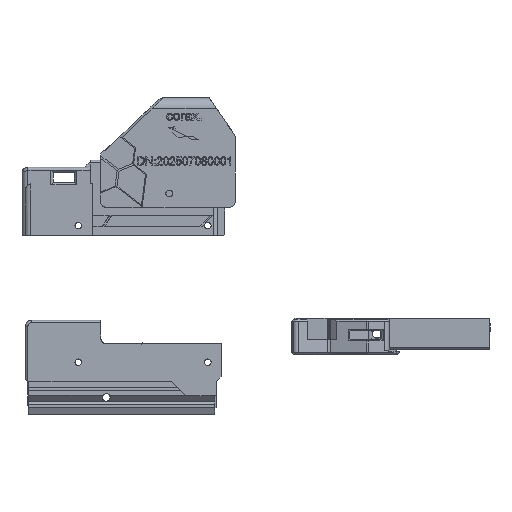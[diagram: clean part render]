
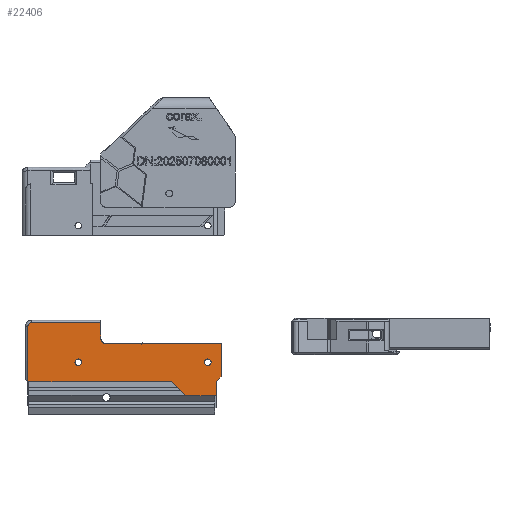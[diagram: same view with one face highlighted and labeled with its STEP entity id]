
A CAD part, left-side view. The second image highlights one B-rep face of the part: STEP entity #22406.
In plain terms, the highlighted planar face has unit normal (-1, 0, 0).
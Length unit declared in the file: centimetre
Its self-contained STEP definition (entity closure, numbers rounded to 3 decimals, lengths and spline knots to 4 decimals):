
#1197=FACE_BOUND($,#4266,.T.);
#1198=FACE_BOUND($,#4267,.T.);
#1837=PLANE($,#23501);
#2977=FACE_OUTER_BOUND($,#4265,.T.);
#4265=EDGE_LOOP($,(#20537,#20538,#20539,#20540,#20541,#20542,#20543,#20544,
#20545,#20546,#20547,#20548,#20549,#20550,#20551,#20552,#20553,#20554,#20555,
#20556,#20557));
#4266=EDGE_LOOP($,(#20558));
#4267=EDGE_LOOP($,(#20559));
#4608=CIRCLE($,#23502,0.2);
#4609=CIRCLE($,#23503,0.15);
#4610=CIRCLE($,#23504,0.14);
#4611=CIRCLE($,#23505,0.14);
#6661=LINE($,#41077,#8961);
#6663=LINE($,#41081,#8963);
#6664=LINE($,#41083,#8964);
#6665=LINE($,#41085,#8965);
#6666=LINE($,#41087,#8966);
#6667=LINE($,#41089,#8967);
#6668=LINE($,#41091,#8968);
#6669=LINE($,#41093,#8969);
#6670=LINE($,#41095,#8970);
#6671=LINE($,#41097,#8971);
#6672=LINE($,#41099,#8972);
#6673=LINE($,#41101,#8973);
#6674=LINE($,#41103,#8974);
#6675=LINE($,#41105,#8975);
#6676=LINE($,#41107,#8976);
#6677=LINE($,#41111,#8977);
#6678=LINE($,#41113,#8978);
#6679=LINE($,#41117,#8979);
#6680=LINE($,#41118,#8980);
#8961=VECTOR($,#27594,0.8485);
#8963=VECTOR($,#27598,1.3);
#8964=VECTOR($,#27599,0.6);
#8965=VECTOR($,#27600,0.2828);
#8966=VECTOR($,#27601,1.4087);
#8967=VECTOR($,#27602,3.2744);
#8968=VECTOR($,#27603,0.0896);
#8969=VECTOR($,#27604,0.0458);
#8970=VECTOR($,#27605,0.0155);
#8971=VECTOR($,#27606,0.0135);
#8972=VECTOR($,#27607,0.0087);
#8973=VECTOR($,#27608,0.04);
#8974=VECTOR($,#27609,0.0232);
#8975=VECTOR($,#27610,0.0517);
#8976=VECTOR($,#27611,1.4621);
#8977=VECTOR($,#27614,0.6913);
#8978=VECTOR($,#27615,2.95);
#8979=VECTOR($,#27618,2.35);
#8980=VECTOR($,#27619,6.1);
#11236=VERTEX_POINT($,#41074);
#11237=VERTEX_POINT($,#41076);
#11238=VERTEX_POINT($,#41080);
#11239=VERTEX_POINT($,#41082);
#11240=VERTEX_POINT($,#41084);
#11241=VERTEX_POINT($,#41086);
#11242=VERTEX_POINT($,#41088);
#11243=VERTEX_POINT($,#41090);
#11244=VERTEX_POINT($,#41092);
#11245=VERTEX_POINT($,#41094);
#11246=VERTEX_POINT($,#41096);
#11247=VERTEX_POINT($,#41098);
#11248=VERTEX_POINT($,#41100);
#11249=VERTEX_POINT($,#41102);
#11250=VERTEX_POINT($,#41104);
#11251=VERTEX_POINT($,#41106);
#11252=VERTEX_POINT($,#41108);
#11253=VERTEX_POINT($,#41110);
#11254=VERTEX_POINT($,#41112);
#11255=VERTEX_POINT($,#41114);
#11256=VERTEX_POINT($,#41116);
#11257=VERTEX_POINT($,#41119);
#11258=VERTEX_POINT($,#41121);
#14380=EDGE_CURVE($,#11236,#11237,#6661,.T.);
#14382=EDGE_CURVE($,#11238,#11236,#6663,.F.);
#14383=EDGE_CURVE($,#11238,#11239,#6664,.F.);
#14384=EDGE_CURVE($,#11240,#11239,#6665,.T.);
#14385=EDGE_CURVE($,#11240,#11241,#6666,.T.);
#14386=EDGE_CURVE($,#11241,#11242,#6667,.T.);
#14387=EDGE_CURVE($,#11242,#11243,#6668,.T.);
#14388=EDGE_CURVE($,#11243,#11244,#6669,.F.);
#14389=EDGE_CURVE($,#11244,#11245,#6670,.T.);
#14390=EDGE_CURVE($,#11245,#11246,#6671,.T.);
#14391=EDGE_CURVE($,#11246,#11247,#6672,.F.);
#14392=EDGE_CURVE($,#11248,#11247,#6673,.T.);
#14393=EDGE_CURVE($,#11248,#11249,#6674,.T.);
#14394=EDGE_CURVE($,#11249,#11250,#6675,.F.);
#14395=EDGE_CURVE($,#11250,#11251,#6676,.T.);
#14396=EDGE_CURVE($,#11251,#11252,#4608,.T.);
#14397=EDGE_CURVE($,#11252,#11253,#6677,.T.);
#14398=EDGE_CURVE($,#11254,#11253,#6678,.T.);
#14399=EDGE_CURVE($,#11255,#11254,#4609,.T.);
#14400=EDGE_CURVE($,#11256,#11255,#6679,.T.);
#14401=EDGE_CURVE($,#11237,#11256,#6680,.T.);
#14402=EDGE_CURVE($,#11257,#11257,#4610,.T.);
#14403=EDGE_CURVE($,#11258,#11258,#4611,.T.);
#20537=ORIENTED_EDGE($,*,*,#14380,.F.);
#20538=ORIENTED_EDGE($,*,*,#14382,.F.);
#20539=ORIENTED_EDGE($,*,*,#14383,.T.);
#20540=ORIENTED_EDGE($,*,*,#14384,.F.);
#20541=ORIENTED_EDGE($,*,*,#14385,.T.);
#20542=ORIENTED_EDGE($,*,*,#14386,.T.);
#20543=ORIENTED_EDGE($,*,*,#14387,.T.);
#20544=ORIENTED_EDGE($,*,*,#14388,.T.);
#20545=ORIENTED_EDGE($,*,*,#14389,.T.);
#20546=ORIENTED_EDGE($,*,*,#14390,.T.);
#20547=ORIENTED_EDGE($,*,*,#14391,.T.);
#20548=ORIENTED_EDGE($,*,*,#14392,.F.);
#20549=ORIENTED_EDGE($,*,*,#14393,.T.);
#20550=ORIENTED_EDGE($,*,*,#14394,.T.);
#20551=ORIENTED_EDGE($,*,*,#14395,.T.);
#20552=ORIENTED_EDGE($,*,*,#14396,.T.);
#20553=ORIENTED_EDGE($,*,*,#14397,.T.);
#20554=ORIENTED_EDGE($,*,*,#14398,.F.);
#20555=ORIENTED_EDGE($,*,*,#14399,.F.);
#20556=ORIENTED_EDGE($,*,*,#14400,.F.);
#20557=ORIENTED_EDGE($,*,*,#14401,.F.);
#20558=ORIENTED_EDGE($,*,*,#14402,.T.);
#20559=ORIENTED_EDGE($,*,*,#14403,.T.);
#22406=ADVANCED_FACE($,(#2977,#1197,#1198),#1837,.F.);
#23501=AXIS2_PLACEMENT_3D($,#41079,#27596,#27597);
#23502=AXIS2_PLACEMENT_3D($,#41109,#27612,#27613);
#23503=AXIS2_PLACEMENT_3D($,#41115,#27616,#27617);
#23504=AXIS2_PLACEMENT_3D($,#41120,#27620,#27621);
#23505=AXIS2_PLACEMENT_3D($,#41122,#27622,#27623);
#27594=DIRECTION($,(0.,0.707,0.707));
#27596=DIRECTION('center_axis',(1.,0.,0.));
#27597=DIRECTION('ref_axis',(0.,0.,-1.));
#27598=DIRECTION($,(0.,-1.,0.));
#27599=DIRECTION($,(0.,0.,-1.));
#27600=DIRECTION($,(0.,0.707,-0.707));
#27601=DIRECTION($,(0.,0.,1.));
#27602=DIRECTION($,(0.,1.,0.));
#27603=DIRECTION($,(0.,0.791,0.612));
#27604=DIRECTION($,(0.,-0.134,0.991));
#27605=DIRECTION($,(0.,-0.791,-0.612));
#27606=DIRECTION($,(0.,1.,0.));
#27607=DIRECTION($,(0.,-0.134,0.991));
#27608=DIRECTION($,(0.,-1.,0.));
#27609=DIRECTION($,(0.,0.134,-0.991));
#27610=DIRECTION($,(0.,-0.791,-0.612));
#27611=DIRECTION($,(0.,1.,0.));
#27612=DIRECTION('center_axis',(1.,0.,0.));
#27613=DIRECTION('ref_axis',(0.,0.707,-0.707));
#27614=DIRECTION($,(0.,0.,1.));
#27615=DIRECTION($,(0.,-1.,0.));
#27616=DIRECTION('center_axis',(1.,0.,0.));
#27617=DIRECTION('ref_axis',(0.,0.707,0.707));
#27618=DIRECTION($,(0.,0.,1.));
#27619=DIRECTION($,(0.,1.,0.));
#27620=DIRECTION('center_axis',(1.,0.,0.));
#27621=DIRECTION('ref_axis',(0.,1.,0.));
#27622=DIRECTION('center_axis',(1.,0.,0.));
#27623=DIRECTION('ref_axis',(0.,1.,0.));
#41074=CARTESIAN_POINT('',(-18.29,11.6,-6.1));
#41076=CARTESIAN_POINT('',(-18.29,12.2,-5.5));
#41077=CARTESIAN_POINT($,(-18.29,12.65,-5.05));
#41079=CARTESIAN_POINT('Origin',(-18.29,14.25,-5.15));
#41080=CARTESIAN_POINT('',(-18.29,10.3,-6.1));
#41081=CARTESIAN_POINT($,(-18.29,16.275,-6.1));
#41082=CARTESIAN_POINT('',(-18.29,10.3,-5.5));
#41083=CARTESIAN_POINT($,(-18.29,10.3,-6.5));
#41084=CARTESIAN_POINT('',(-18.29,10.1,-5.3));
#41085=CARTESIAN_POINT($,(-18.29,11.15,-6.35));
#41086=CARTESIAN_POINT('',(-18.29,10.1,-3.8913));
#41087=CARTESIAN_POINT($,(-18.29,10.1,-5.15));
#41088=CARTESIAN_POINT('',(-18.29,13.3744,-3.8913));
#41089=CARTESIAN_POINT($,(-18.29,12.7,-3.8913));
#41090=CARTESIAN_POINT('',(-18.29,13.4453,-3.8365));
#41091=CARTESIAN_POINT($,(-18.29,13.9247,-3.466));
#41092=CARTESIAN_POINT('',(-18.29,13.4515,-3.8819));
#41093=CARTESIAN_POINT($,(-18.29,13.4959,-4.2104));
#41094=CARTESIAN_POINT('',(-18.29,13.4392,-3.8913));
#41095=CARTESIAN_POINT($,(-18.29,13.949,-3.4974));
#41096=CARTESIAN_POINT('',(-18.29,13.4527,-3.8913));
#41097=CARTESIAN_POINT($,(-18.29,12.7,-3.8913));
#41098=CARTESIAN_POINT('',(-18.29,13.4539,-3.9));
#41099=CARTESIAN_POINT($,(-18.29,13.4959,-4.2104));
#41100=CARTESIAN_POINT('',(-18.29,13.4939,-3.9));
#41101=CARTESIAN_POINT($,(-18.29,14.25,-3.9));
#41102=CARTESIAN_POINT('',(-18.29,13.497,-3.923));
#41103=CARTESIAN_POINT($,(-18.29,13.5352,-4.2051));
#41104=CARTESIAN_POINT('',(-18.29,13.5379,-3.8913));
#41105=CARTESIAN_POINT($,(-18.29,13.9859,-3.5452));
#41106=CARTESIAN_POINT('',(-18.29,15.,-3.8913));
#41107=CARTESIAN_POINT($,(-18.29,12.7,-3.8913));
#41108=CARTESIAN_POINT('',(-18.29,15.2,-3.6913));
#41109=CARTESIAN_POINT('Origin',(-18.29,15.,-3.6913));
#41110=CARTESIAN_POINT('',(-18.29,15.2,-3.));
#41111=CARTESIAN_POINT($,(-18.29,15.2,-3.575));
#41112=CARTESIAN_POINT('',(-18.29,18.15,-3.));
#41113=CARTESIAN_POINT($,(-18.29,14.25,-3.));
#41114=CARTESIAN_POINT('',(-18.29,18.3,-3.15));
#41115=CARTESIAN_POINT('Origin',(-18.29,18.15,-3.15));
#41116=CARTESIAN_POINT('',(-18.29,18.3,-5.5));
#41117=CARTESIAN_POINT($,(-18.29,18.3,-5.15));
#41118=CARTESIAN_POINT($,(-18.29,14.25,-5.5));
#41119=CARTESIAN_POINT('',(-18.29,16.0211,-4.6773));
#41120=CARTESIAN_POINT('Origin',(-18.29,16.1611,-4.6773));
#41121=CARTESIAN_POINT('',(-18.29,10.5211,-4.6773));
#41122=CARTESIAN_POINT('Origin',(-18.29,10.6611,-4.6773));
